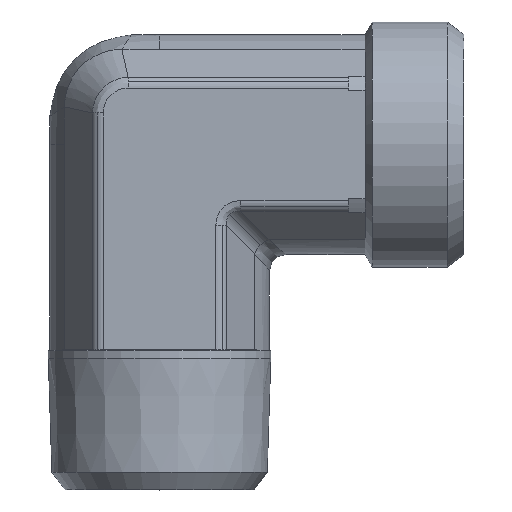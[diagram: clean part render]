
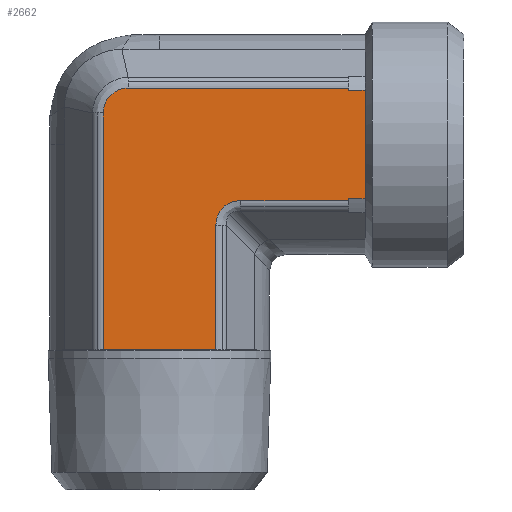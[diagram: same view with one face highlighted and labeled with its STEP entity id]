
A CAD part, top view. The second image highlights one B-rep face of the part: STEP entity #2662.
In plain terms, the highlighted planar face has unit normal (0, 0, 1) as drawn and (0, -1, 0) by its records, which use the part's own axes.
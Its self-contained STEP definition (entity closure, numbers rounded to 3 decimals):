
#361=CARTESIAN_POINT('',(5.387,-13.375,6.856));
#362=VERTEX_POINT('',#361);
#370=CARTESIAN_POINT('',(20.5,-13.375,6.856));
#371=VERTEX_POINT('',#370);
#372=CARTESIAN_POINT('',(5.387,-13.375,6.856));
#373=DIRECTION('',(1.0,0.0,0.0));
#374=VECTOR('',#373,15.113);
#375=LINE('',#372,#374);
#376=EDGE_CURVE('',#362,#371,#375,.T.);
#485=CARTESIAN_POINT('',(-11.356,-13.375,-3.819));
#486=VERTEX_POINT('',#485);
#494=CARTESIAN_POINT('',(-11.356,-13.375,23.0));
#495=VERTEX_POINT('',#494);
#496=CARTESIAN_POINT('',(-11.356,-13.375,-3.819));
#497=DIRECTION('',(0.0,0.0,1.0));
#498=VECTOR('',#497,26.819);
#499=LINE('',#496,#498);
#500=EDGE_CURVE('',#486,#495,#499,.T.);
#711=CARTESIAN_POINT('',(20.5,-13.375,0.));
#712=VERTEX_POINT('',#711);
#2061=CARTESIAN_POINT('',(2.356,-13.375,23.0));
#2062=VERTEX_POINT('',#2061);
#2063=CARTESIAN_POINT('',(2.089,-13.375,23.0));
#2064=VERTEX_POINT('',#2063);
#2065=CARTESIAN_POINT('',(2.356,-13.375,23.0));
#2066=DIRECTION('',(-1.0,0.0,0.0));
#2067=VECTOR('',#2066,0.267);
#2068=LINE('',#2065,#2067);
#2069=EDGE_CURVE('',#2062,#2064,#2068,.T.);
#2120=CARTESIAN_POINT('',(-11.089,-13.375,23.0));
#2121=VERTEX_POINT('',#2120);
#2122=CARTESIAN_POINT('',(-11.089,-13.375,23.0));
#2123=DIRECTION('',(-1.0,0.0,0.0));
#2124=VECTOR('',#2123,0.267);
#2125=LINE('',#2122,#2124);
#2126=EDGE_CURVE('',#2121,#495,#2125,.T.);
#2225=CARTESIAN_POINT('',(2.089,-13.375,25.0));
#2226=VERTEX_POINT('',#2225);
#2227=CARTESIAN_POINT('',(2.089,-13.375,23.0));
#2228=DIRECTION('',(0.0,0.0,1.0));
#2229=VECTOR('',#2228,2.0);
#2230=LINE('',#2227,#2229);
#2231=EDGE_CURVE('',#2064,#2226,#2230,.T.);
#2266=CARTESIAN_POINT('',(-11.089,-13.375,25.0));
#2267=VERTEX_POINT('',#2266);
#2268=CARTESIAN_POINT('',(-11.089,-13.375,25.0));
#2269=DIRECTION('',(0.0,0.0,-1.0));
#2270=VECTOR('',#2269,2.0);
#2271=LINE('',#2268,#2270);
#2272=EDGE_CURVE('',#2267,#2121,#2271,.T.);
#2568=CARTESIAN_POINT('',(-4.5,-13.375,25.0));
#2569=VERTEX_POINT('',#2568);
#2570=CARTESIAN_POINT('',(-4.5,-13.375,25.0));
#2571=DIRECTION('',(-1.0,0.0,0.0));
#2572=VECTOR('',#2571,6.589);
#2573=LINE('',#2570,#2572);
#2574=EDGE_CURVE('',#2569,#2267,#2573,.T.);
#2592=CARTESIAN_POINT('',(-4.5,-13.375,-3.175));
#2593=DIRECTION('',(0.0,-1.0,0.0));
#2594=DIRECTION('',(0.0,0.0,-1.0));
#2595=AXIS2_PLACEMENT_3D('',#2592,#2593,#2594);
#2596=PLANE('',#2595);
#2597=ORIENTED_EDGE('',*,*,#2272,.T.);
#2598=ORIENTED_EDGE('',*,*,#2126,.T.);
#2599=ORIENTED_EDGE('',*,*,#500,.F.);
#2600=CARTESIAN_POINT('',(-8.319,-13.375,-6.856));
#2601=VERTEX_POINT('',#2600);
#2602=CARTESIAN_POINT('',(-11.356,-13.375,-3.819));
#2603=CARTESIAN_POINT('',(-11.356,-13.375,-4.016));
#2604=CARTESIAN_POINT('',(-11.336,-13.375,-4.216));
#2605=CARTESIAN_POINT('',(-11.235,-13.375,-4.725));
#2606=CARTESIAN_POINT('',(-11.123,-13.375,-5.025));
#2607=CARTESIAN_POINT('',(-10.717,-13.375,-5.748));
#2608=CARTESIAN_POINT('',(-10.355,-13.375,-6.127));
#2609=CARTESIAN_POINT('',(-9.441,-13.375,-6.697));
#2610=CARTESIAN_POINT('',(-8.88,-13.375,-6.856));
#2611=CARTESIAN_POINT('',(-8.319,-13.375,-6.856));
#2612=B_SPLINE_CURVE_WITH_KNOTS('',3,(#2602,#2603,#2604,#2605,#2606,#2607,#2608,#2609,#2610,#2611),.UNSPECIFIED.,.F.,.U.,(4,2,2,2,4),(-4.746,-4.152,-3.203,-1.685,0.0),.UNSPECIFIED.);
#2613=EDGE_CURVE('',#2601,#486,#2612,.F.);
#2614=ORIENTED_EDGE('',*,*,#2613,.F.);
#2615=CARTESIAN_POINT('',(20.5,-13.375,-6.856));
#2616=VERTEX_POINT('',#2615);
#2617=CARTESIAN_POINT('',(20.5,-13.375,-6.856));
#2618=DIRECTION('',(-1.0,0.0,0.0));
#2619=VECTOR('',#2618,28.819);
#2620=LINE('',#2617,#2619);
#2621=EDGE_CURVE('',#2616,#2601,#2620,.T.);
#2622=ORIENTED_EDGE('',*,*,#2621,.F.);
#2623=CARTESIAN_POINT('',(20.5,-13.375,-6.856));
#2624=DIRECTION('',(0.0,0.0,1.0));
#2625=VECTOR('',#2624,6.856);
#2626=LINE('',#2623,#2625);
#2627=EDGE_CURVE('',#2616,#712,#2626,.T.);
#2628=ORIENTED_EDGE('',*,*,#2627,.T.);
#2629=CARTESIAN_POINT('',(20.5,-13.375,0.));
#2630=DIRECTION('',(0.0,0.0,1.0));
#2631=VECTOR('',#2630,6.856);
#2632=LINE('',#2629,#2631);
#2633=EDGE_CURVE('',#712,#371,#2632,.T.);
#2634=ORIENTED_EDGE('',*,*,#2633,.T.);
#2635=ORIENTED_EDGE('',*,*,#376,.F.);
#2636=CARTESIAN_POINT('',(2.356,-13.375,9.887));
#2637=VERTEX_POINT('',#2636);
#2638=CARTESIAN_POINT('',(6.397,-13.375,10.897));
#2639=DIRECTION('',(0.,-1.0,0.));
#2640=DIRECTION('',(-0.707,0.,-0.707));
#2641=AXIS2_PLACEMENT_3D('',#2638,#2639,#2640);
#2642=ELLIPSE('',#2641,4.518,3.5);
#2643=EDGE_CURVE('',#2637,#362,#2642,.T.);
#2644=ORIENTED_EDGE('',*,*,#2643,.F.);
#2645=CARTESIAN_POINT('',(2.356,-13.375,23.0));
#2646=DIRECTION('',(0.0,0.0,-1.0));
#2647=VECTOR('',#2646,13.113);
#2648=LINE('',#2645,#2647);
#2649=EDGE_CURVE('',#2062,#2637,#2648,.T.);
#2650=ORIENTED_EDGE('',*,*,#2649,.F.);
#2651=ORIENTED_EDGE('',*,*,#2069,.T.);
#2652=ORIENTED_EDGE('',*,*,#2231,.T.);
#2653=CARTESIAN_POINT('',(2.089,-13.375,25.0));
#2654=DIRECTION('',(-1.0,0.0,0.0));
#2655=VECTOR('',#2654,6.589);
#2656=LINE('',#2653,#2655);
#2657=EDGE_CURVE('',#2226,#2569,#2656,.T.);
#2658=ORIENTED_EDGE('',*,*,#2657,.T.);
#2659=ORIENTED_EDGE('',*,*,#2574,.T.);
#2660=EDGE_LOOP('',(#2597,#2598,#2599,#2614,#2622,#2628,#2634,#2635,#2644,#2650,#2651,#2652,#2658,#2659));
#2661=FACE_OUTER_BOUND('',#2660,.T.);
#2662=ADVANCED_FACE('',(#2661),#2596,.T.);
